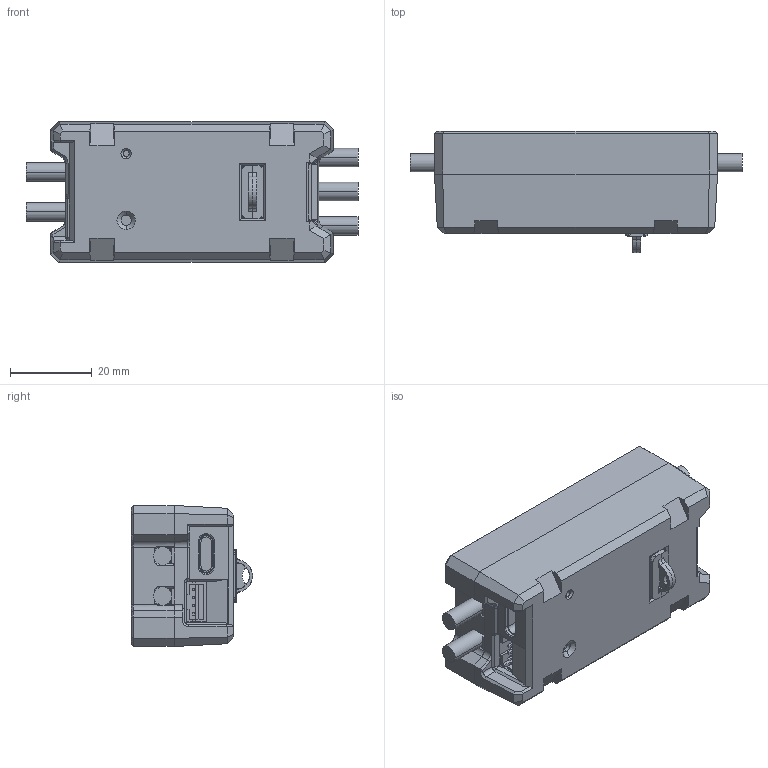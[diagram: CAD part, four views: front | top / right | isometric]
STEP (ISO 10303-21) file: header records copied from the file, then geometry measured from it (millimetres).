
FILE_DESCRIPTION (( 'STEP AP214' ), '1' );
FILE_NAME ('SPARK_MAX_Motor_Controller-REV-11-2158.step', '2025-12-23T15:58:07', ( '' ), ( '' ), 'SwSTEP 2.0', 'SolidWorks 2026', '' );
FILE_SCHEMA (( 'AUTOMOTIVE_DESIGN' ));
Length unit declared in the file: inch
Products named in the file (1): SPARK_MAX_Motor_Controller-REV-11-2158
Bounding box: 81.25 x 29.65 x 34.5 mm (x, y, z)
Volume: 26492.1 mm3; surface area: 26649.2 mm2
Topology: 18 solids, 18 shells, 1165 faces, 2997 edges, 1888 vertices
Faces by surface type: plane 856, cylinder 158, cone 68, bspline 61, torus 22
Entity records: 37663 total; most frequent: CARTESIAN_POINT 9700, ORIENTED_EDGE 5954, DIRECTION 5343, EDGE_CURVE 2977, VECTOR 2291, LINE 2291, VERTEX_POINT 1888, AXIS2_PLACEMENT_3D 1526
